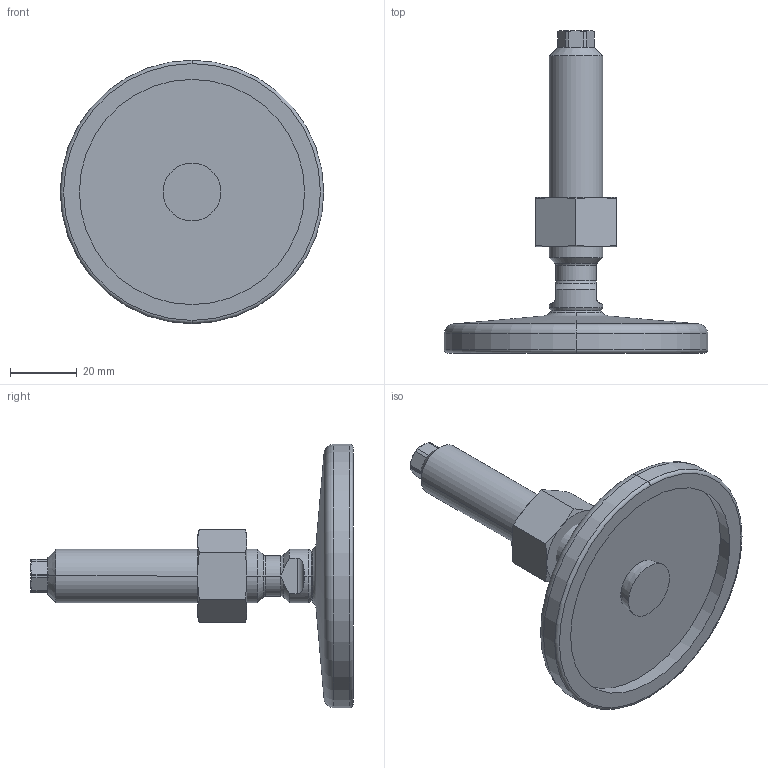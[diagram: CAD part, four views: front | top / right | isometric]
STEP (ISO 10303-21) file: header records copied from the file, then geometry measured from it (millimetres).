
FILE_DESCRIPTION (( 'STEP AP214' ), '1' );
FILE_NAME ('21-80-M16-75-D0-VK.step', '2020-10-02T17:35:59', ( '' ), ( '' ), 'SwSTEP 2.0', 'SolidWorks 2019', '' );
FILE_SCHEMA (( 'AUTOMOTIVE_DESIGN' ));
Length unit declared in the file: millimetre
Products named in the file (4): WB21_Spindel_V^WB21_V_M16-75; WB21_Fußteller 21^WB21_V_D0-080-R10-B7 (M8 M10_M12_M16); 21-80-M16-75-D0-VK; WB4032^WB21_V_M16
Assembly tree (3 placements, depth 2):
  21-80-M16-75-D0-VK
    WB21_Fußteller 21^WB21_V_D0-080-R10-B7 (M8 M10_M12_M16)
    WB21_Spindel_V^WB21_V_M16-75
    WB4032^WB21_V_M16
Bounding box: 79 x 96.64 x 79 mm (x, y, z)
Volume: 52056.8 mm3; surface area: 20209.3 mm2
Topology: 3 solids, 3 shells, 101 faces, 225 edges, 133 vertices
Faces by surface type: cone 33, plane 29, cylinder 25, torus 10, sphere 4
Entity records: 3168 total; most frequent: CARTESIAN_POINT 741, DIRECTION 492, ORIENTED_EDGE 450, EDGE_CURVE 225, AXIS2_PLACEMENT_3D 212, VERTEX_POINT 133, EDGE_LOOP 106, CIRCLE 105
